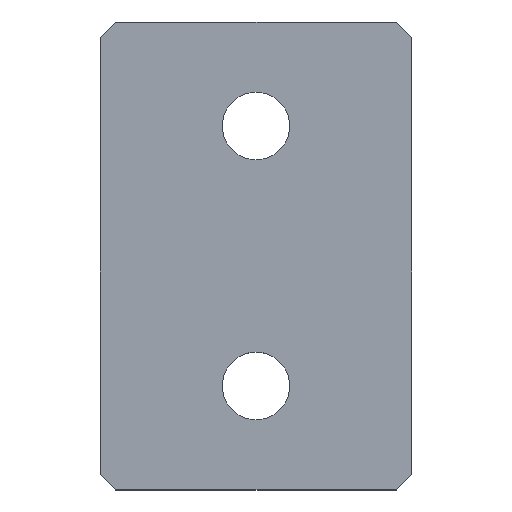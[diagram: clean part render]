
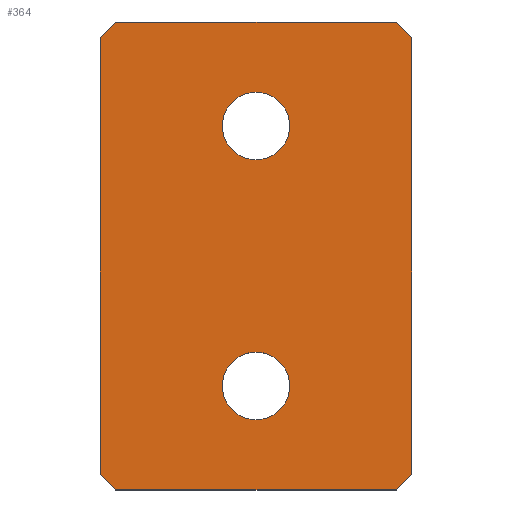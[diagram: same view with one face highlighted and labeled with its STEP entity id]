
A CAD part, top view. The second image highlights one B-rep face of the part: STEP entity #364.
In plain terms, the highlighted planar face has unit normal (0, 0, 1).
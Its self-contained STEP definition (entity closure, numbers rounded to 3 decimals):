
#9 = EDGE_CURVE ( 'NONE', #365, #365, #23, .T. ) ;
#12 = PLANE ( 'NONE',  #372 ) ;
#14 = EDGE_LOOP ( 'NONE', ( #210, #49, #373, #322, #374, #194, #129, #54 ) ) ;
#16 = ORIENTED_EDGE ( 'NONE', *, *, #9, .T. ) ;
#21 = DIRECTION ( 'NONE',  ( -1., 0., 0. ) ) ;
#23 = CIRCLE ( 'NONE', #233, 3.25 ) ;
#25 = VERTEX_POINT ( 'NONE', #202 ) ;
#35 = EDGE_CURVE ( 'NONE', #48, #241, #325, .T. ) ;
#36 = DIRECTION ( 'NONE',  ( 0.707, 0.707, 0. ) ) ;
#46 = DIRECTION ( 'NONE',  ( 0., -1., 0. ) ) ;
#48 = VERTEX_POINT ( 'NONE', #143 ) ;
#49 = ORIENTED_EDGE ( 'NONE', *, *, #52, .T. ) ;
#52 = EDGE_CURVE ( 'NONE', #371, #204, #313, .T. ) ;
#54 = ORIENTED_EDGE ( 'NONE', *, *, #121, .T. ) ;
#56 = VECTOR ( 'NONE', #342, 1000. ) ;
#61 = EDGE_LOOP ( 'NONE', ( #113 ) ) ;
#62 = CARTESIAN_POINT ( 'NONE',  ( -13.5, -22.5, 3. ) ) ;
#74 = EDGE_CURVE ( 'NONE', #196, #371, #285, .T. ) ;
#75 = CARTESIAN_POINT ( 'NONE',  ( 15., 22.5, 3. ) ) ;
#77 = DIRECTION ( 'NONE',  ( 0., 0., 1. ) ) ;
#80 = EDGE_CURVE ( 'NONE', #156, #156, #168, .T. ) ;
#96 = DIRECTION ( 'NONE',  ( -0.707, -0.707, 0. ) ) ;
#99 = DIRECTION ( 'NONE',  ( 1., 0., 0. ) ) ;
#101 = CARTESIAN_POINT ( 'NONE',  ( -3.25, -12.5, 3. ) ) ;
#102 = CARTESIAN_POINT ( 'NONE',  ( 36.75, -0.75, 3. ) ) ;
#113 = ORIENTED_EDGE ( 'NONE', *, *, #80, .T. ) ;
#116 = DIRECTION ( 'NONE',  ( 0., 1., 0. ) ) ;
#120 = CARTESIAN_POINT ( 'NONE',  ( 15., -21., 3. ) ) ;
#121 = EDGE_CURVE ( 'NONE', #234, #196, #248, .T. ) ;
#122 = DIRECTION ( 'NONE',  ( 0., 0., -1. ) ) ;
#125 = FACE_OUTER_BOUND ( 'NONE', #14, .T. ) ;
#127 = VECTOR ( 'NONE', #36, 1000. ) ;
#129 = ORIENTED_EDGE ( 'NONE', *, *, #321, .T. ) ;
#132 = CARTESIAN_POINT ( 'NONE',  ( -15., -22.5, 3. ) ) ;
#143 = CARTESIAN_POINT ( 'NONE',  ( 13.5, 22.5, 3. ) ) ;
#146 = CARTESIAN_POINT ( 'NONE',  ( 0.75, -36.75, 3. ) ) ;
#148 = DIRECTION ( 'NONE',  ( 0.707, -0.707, 0. ) ) ;
#150 = LINE ( 'NONE', #380, #221 ) ;
#151 = DIRECTION ( 'NONE',  ( -1., 0., 0. ) ) ;
#153 = CARTESIAN_POINT ( 'NONE',  ( 13.5, -22.5, 3. ) ) ;
#154 = AXIS2_PLACEMENT_3D ( 'NONE', #175, #122, #151 ) ;
#156 = VERTEX_POINT ( 'NONE', #220 ) ;
#167 = CARTESIAN_POINT ( 'NONE',  ( 0., -12.5, 3. ) ) ;
#168 = CIRCLE ( 'NONE', #154, 3.25 ) ;
#175 = CARTESIAN_POINT ( 'NONE',  ( 0., 12.5, 3. ) ) ;
#179 = VECTOR ( 'NONE', #148, 1000. ) ;
#189 = VECTOR ( 'NONE', #46, 1000. ) ;
#192 = EDGE_CURVE ( 'NONE', #241, #311, #242, .T. ) ;
#193 = FACE_BOUND ( 'NONE', #61, .T. ) ;
#194 = ORIENTED_EDGE ( 'NONE', *, *, #192, .T. ) ;
#196 = VERTEX_POINT ( 'NONE', #62 ) ;
#202 = CARTESIAN_POINT ( 'NONE',  ( 15., 21., 3. ) ) ;
#204 = VERTEX_POINT ( 'NONE', #120 ) ;
#210 = ORIENTED_EDGE ( 'NONE', *, *, #74, .T. ) ;
#214 = DIRECTION ( 'NONE',  ( 1., 0., 0. ) ) ;
#220 = CARTESIAN_POINT ( 'NONE',  ( -3.25, 12.5, 3. ) ) ;
#221 = VECTOR ( 'NONE', #116, 1000. ) ;
#225 = FACE_BOUND ( 'NONE', #376, .T. ) ;
#226 = VECTOR ( 'NONE', #382, 1000. ) ;
#233 = AXIS2_PLACEMENT_3D ( 'NONE', #167, #287, #21 ) ;
#234 = VERTEX_POINT ( 'NONE', #361 ) ;
#241 = VERTEX_POINT ( 'NONE', #265 ) ;
#242 = LINE ( 'NONE', #358, #367 ) ;
#246 = CARTESIAN_POINT ( 'NONE',  ( 14.25, -21.75, 3. ) ) ;
#248 = LINE ( 'NONE', #146, #179 ) ;
#253 = LINE ( 'NONE', #132, #189 ) ;
#256 = CARTESIAN_POINT ( 'NONE',  ( 15., -22.5, 3. ) ) ;
#259 = EDGE_CURVE ( 'NONE', #204, #25, #150, .T. ) ;
#265 = CARTESIAN_POINT ( 'NONE',  ( -13.5, 22.5, 3. ) ) ;
#267 = EDGE_CURVE ( 'NONE', #25, #48, #356, .T. ) ;
#285 = LINE ( 'NONE', #323, #353 ) ;
#287 = DIRECTION ( 'NONE',  ( 0., 0., -1. ) ) ;
#302 = CARTESIAN_POINT ( 'NONE',  ( -15., 21., 3. ) ) ;
#311 = VERTEX_POINT ( 'NONE', #302 ) ;
#313 = LINE ( 'NONE', #246, #127 ) ;
#321 = EDGE_CURVE ( 'NONE', #311, #234, #253, .T. ) ;
#322 = ORIENTED_EDGE ( 'NONE', *, *, #267, .T. ) ;
#323 = CARTESIAN_POINT ( 'NONE',  ( 15., -22.5, 3. ) ) ;
#325 = LINE ( 'NONE', #75, #226 ) ;
#342 = DIRECTION ( 'NONE',  ( -0.707, 0.707, 0. ) ) ;
#353 = VECTOR ( 'NONE', #214, 1000. ) ;
#356 = LINE ( 'NONE', #102, #56 ) ;
#358 = CARTESIAN_POINT ( 'NONE',  ( -21.75, 14.25, 3. ) ) ;
#361 = CARTESIAN_POINT ( 'NONE',  ( -15., -21., 3. ) ) ;
#364 = ADVANCED_FACE ( 'NONE', ( #225, #193, #125 ), #12, .T. ) ;
#365 = VERTEX_POINT ( 'NONE', #101 ) ;
#367 = VECTOR ( 'NONE', #96, 1000. ) ;
#371 = VERTEX_POINT ( 'NONE', #153 ) ;
#372 = AXIS2_PLACEMENT_3D ( 'NONE', #256, #77, #99 ) ;
#373 = ORIENTED_EDGE ( 'NONE', *, *, #259, .T. ) ;
#374 = ORIENTED_EDGE ( 'NONE', *, *, #35, .T. ) ;
#376 = EDGE_LOOP ( 'NONE', ( #16 ) ) ;
#380 = CARTESIAN_POINT ( 'NONE',  ( 15., -22.5, 3. ) ) ;
#382 = DIRECTION ( 'NONE',  ( -1., 0., 0. ) ) ;
